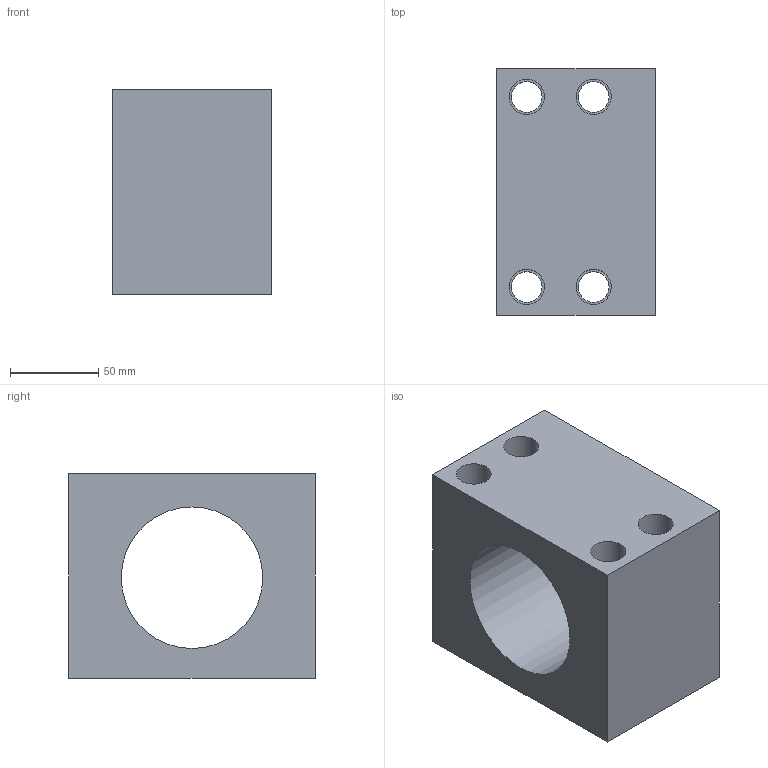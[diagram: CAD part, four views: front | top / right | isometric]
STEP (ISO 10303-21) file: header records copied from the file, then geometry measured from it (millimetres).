
FILE_DESCRIPTION(/* description */ (''),/* implementation_level */ '2;1');
FILE_NAME(/* name */ 'NH50B.stp',/* time_stamp */ '2017-08-19T09:53:38+08:00',/* author */ (''),/* organization */ (''),/* preprocessor_version */ 'ST-DEVELOPER v15',/* originating_system */ 'SIEMENS PLM Software NX 9.0',/* authorisation */ '');
FILE_SCHEMA (('CONFIG_CONTROL_DESIGN'));
Length unit declared in the file: millimetre
Products named in the file (1): NH50B
Bounding box: 90 x 140 x 116 mm (x, y, z)
Volume: 853583.7 mm3; surface area: 120128.9 mm2
Topology: 1 solids, 1 shells, 39 faces, 91 edges, 62 vertices
Faces by surface type: cylinder 19, plane 14, cone 6
Full cylindrical faces by diameter (mm): 6.8 x6, 17.5 x4, 20 x4, 28 x4, 80.4 x1
Entity records: 994 total; most frequent: DIRECTION 168, CARTESIAN_POINT 142, ORIENTED_EDGE 100, FACE_BOUND 86, EDGE_LOOP 82, AXIS2_PLACEMENT_3D 78, VERTEX_POINT 52, EDGE_CURVE 50
